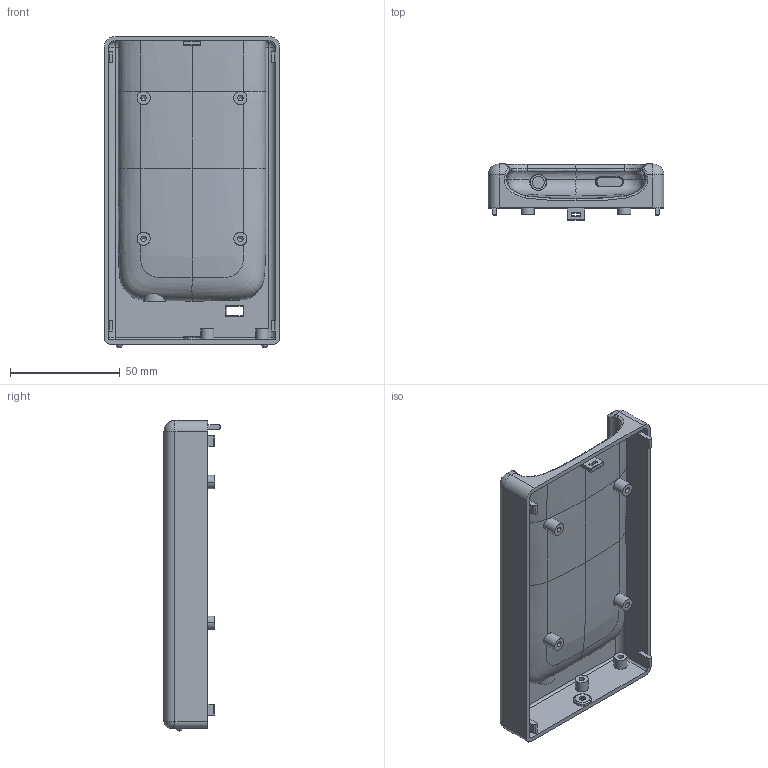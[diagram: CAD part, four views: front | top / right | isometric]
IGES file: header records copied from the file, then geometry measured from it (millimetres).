
Global section: file name: No Iges File Name specified; native system: Autodesk Inventor 2009; preprocessor: AutoDesk Inventor Iges Exporter R2009; author: hide; date: 20090826.064859; units: millimetre
Bounding box: 80 x 25.5 x 141.5 mm (x, y, z)
Volume: 42144.3 mm3; surface area: 43336.4 mm2
Topology: 1 solids, 1 shells, 276 faces, 695 edges, 413 vertices
Faces by surface type: bspline 120, plane 53, cylinder 49, revolution 42, torus 6, sphere 6
